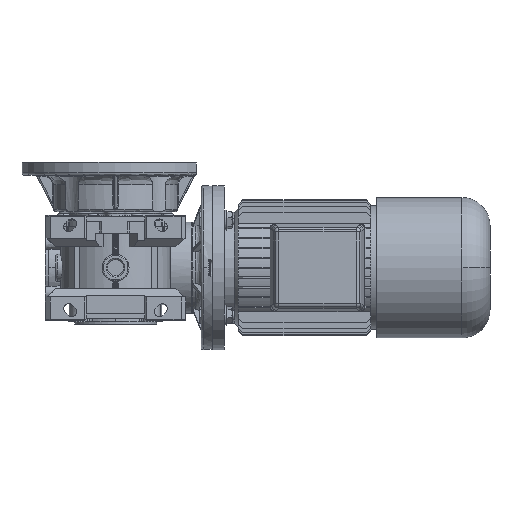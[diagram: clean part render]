
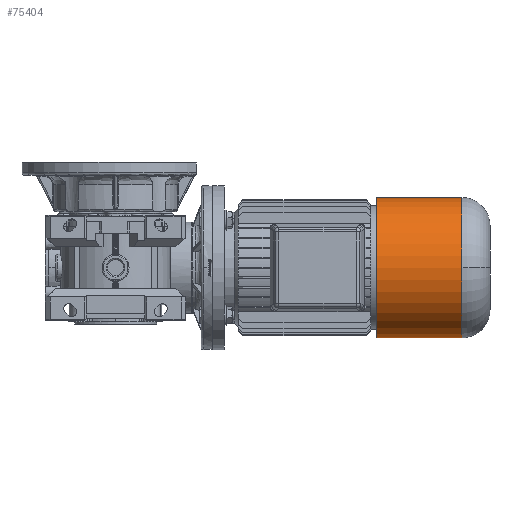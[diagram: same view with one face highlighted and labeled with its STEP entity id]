
A CAD part, front view. The second image highlights one B-rep face of the part: STEP entity #75404.
In plain terms, the highlighted cylindrical face has radius 60 mm (diameter 120 mm), a partial arc.
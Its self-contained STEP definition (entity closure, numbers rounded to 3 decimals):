
#75354=CARTESIAN_POINT('',(199.5,0.0,0.0));
#75355=DIRECTION('',(1.0,0.0,0.0));
#75356=DIRECTION('',(0.0,1.0,0.0));
#75357=AXIS2_PLACEMENT_3D('',#75354,#75355,#75356);
#75358=CYLINDRICAL_SURFACE('',#75357,60.0);
#75359=CARTESIAN_POINT('',(163.0,60.0,0.0));
#75360=VERTEX_POINT('',#75359);
#75361=CARTESIAN_POINT('',(236.0,60.0,0.0));
#75362=VERTEX_POINT('',#75361);
#75363=CARTESIAN_POINT('',(163.0,60.0,0.0));
#75364=DIRECTION('',(1.0,0.0,0.0));
#75365=VECTOR('',#75364,73.0);
#75366=LINE('',#75363,#75365);
#75367=EDGE_CURVE('',#75360,#75362,#75366,.T.);
#75368=ORIENTED_EDGE('',*,*,#75367,.F.);
#75369=CARTESIAN_POINT('',(163.0,-60.0,0.));
#75370=VERTEX_POINT('',#75369);
#75371=CARTESIAN_POINT('',(163.0,0.0,0.0));
#75372=DIRECTION('',(1.0,0.0,0.0));
#75373=DIRECTION('',(0.0,1.0,0.0));
#75374=AXIS2_PLACEMENT_3D('',#75371,#75372,#75373);
#75375=CIRCLE('',#75374,60.0);
#75376=EDGE_CURVE('',#75360,#75370,#75375,.T.);
#75377=ORIENTED_EDGE('',*,*,#75376,.T.);
#75378=CARTESIAN_POINT('',(236.0,-60.0,0.));
#75379=VERTEX_POINT('',#75378);
#75380=CARTESIAN_POINT('',(236.0,-60.0,0.));
#75381=DIRECTION('',(-1.0,0.0,0.0));
#75382=VECTOR('',#75381,73.0);
#75383=LINE('',#75380,#75382);
#75384=EDGE_CURVE('',#75379,#75370,#75383,.T.);
#75385=ORIENTED_EDGE('',*,*,#75384,.F.);
#75386=CARTESIAN_POINT('',(236.0,0.,60.0));
#75387=VERTEX_POINT('',#75386);
#75388=CARTESIAN_POINT('',(236.0,0.0,0.0));
#75389=DIRECTION('',(1.0,0.0,0.0));
#75390=DIRECTION('',(0.0,1.0,0.0));
#75391=AXIS2_PLACEMENT_3D('',#75388,#75389,#75390);
#75392=CIRCLE('',#75391,60.0);
#75393=EDGE_CURVE('',#75387,#75379,#75392,.T.);
#75394=ORIENTED_EDGE('',*,*,#75393,.F.);
#75395=CARTESIAN_POINT('',(236.0,0.0,0.0));
#75396=DIRECTION('',(1.0,0.0,0.0));
#75397=DIRECTION('',(0.0,1.0,0.0));
#75398=AXIS2_PLACEMENT_3D('',#75395,#75396,#75397);
#75399=CIRCLE('',#75398,60.0);
#75400=EDGE_CURVE('',#75362,#75387,#75399,.T.);
#75401=ORIENTED_EDGE('',*,*,#75400,.F.);
#75402=EDGE_LOOP('',(#75368,#75377,#75385,#75394,#75401));
#75403=FACE_OUTER_BOUND('',#75402,.T.);
#75404=ADVANCED_FACE('',(#75403),#75358,.T.);
